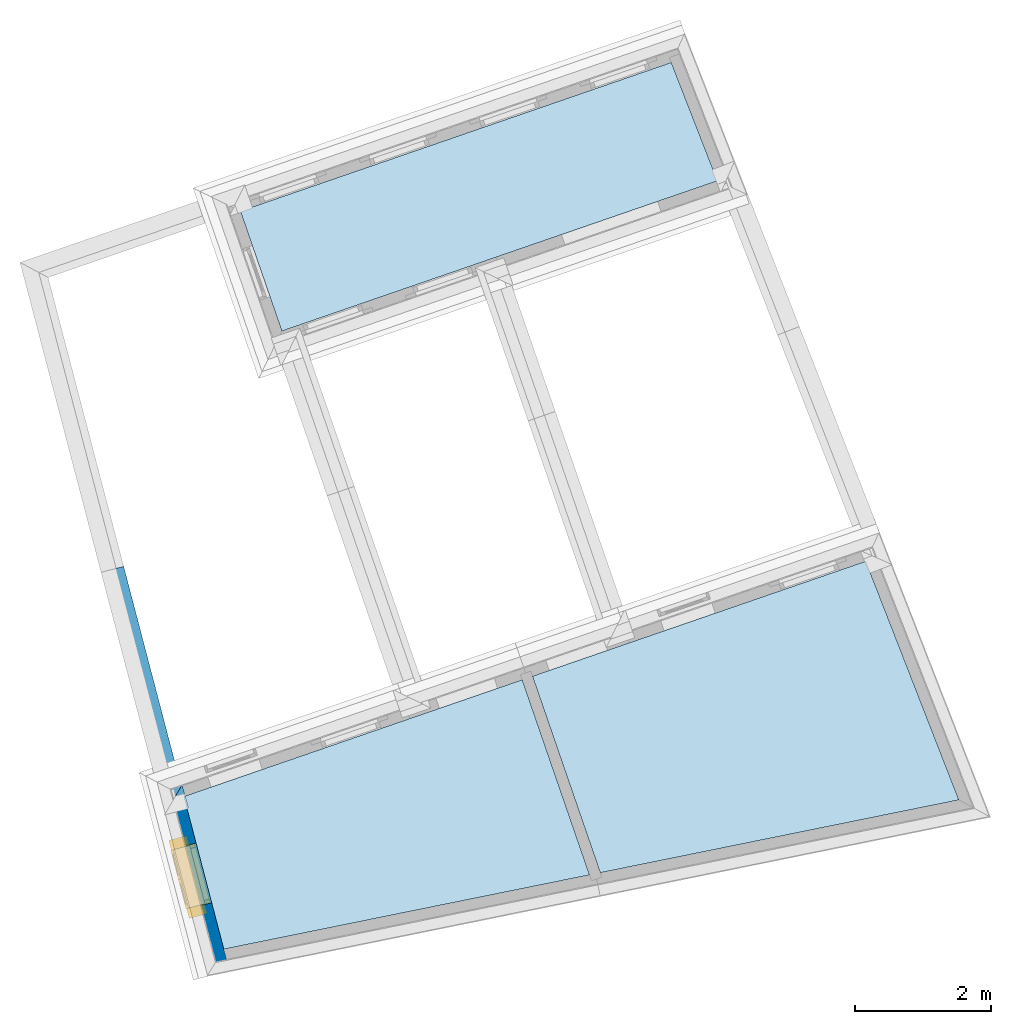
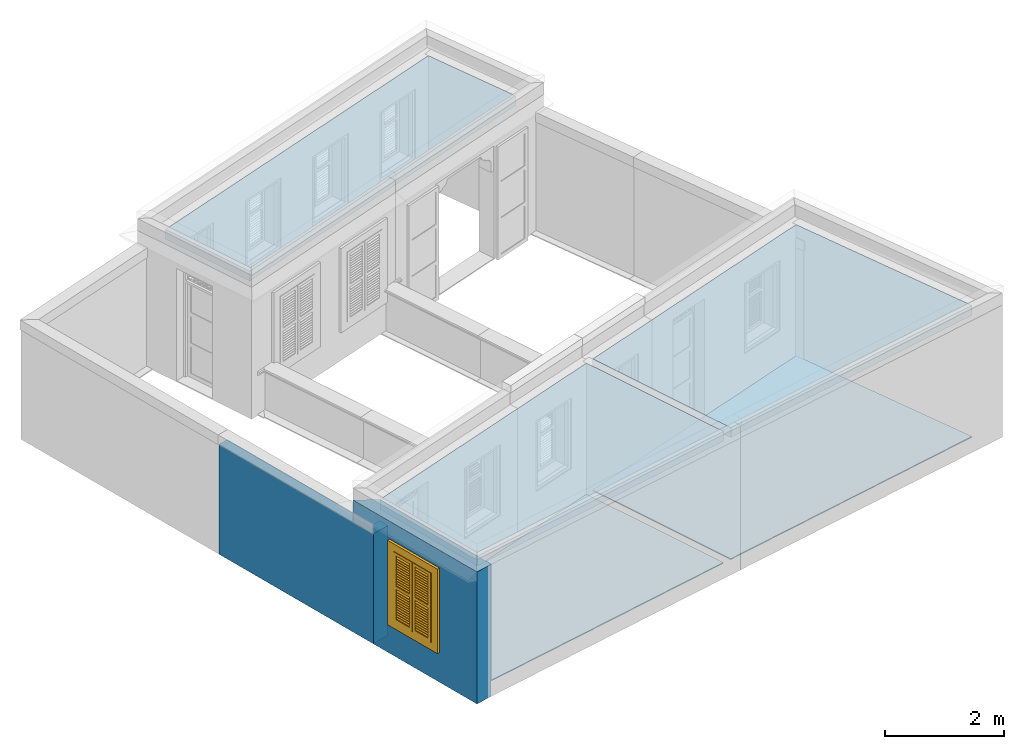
# One storey, part 1 of 16: 5 slabs, 3 walls, 1 window, 1 opening.
"""IFC4 building model written with IfcOpenShell, lengths in metres."""

import ifcopenshell
import ifcopenshell.guid

model = None  # the IFC model being written
_history = None  # IfcOwnerHistory: only IFC2X3 demands one
_inside = {}  # id of a spatial element -> (the spatial element, [elements in it])
_under = {}  # id of a project, library or spatial element -> (it, [spatial elements below it])
_declared = {}  # id of a project -> (the project, [libraries it declares])
_typed = {}  # id of a type object -> (the type object, [elements of that type])
_made_of = {}  # id of a material, layer set ... -> (it, [elements and type objects made of it])


def new_model(schema):
    """Start an empty IFC model of exactly this schema.

    Asked for "IFC4X3", IfcOpenShell would pick the latest addendum, in which some entities
    have other attributes; the version numbers below select the first issue.
    IFC2X3 requires an IfcOwnerHistory on every rooted entity: one is made here for all.
    """
    global model, _history
    if schema == "IFC4X3":
        model = ifcopenshell.file(schema_version=(4, 3, 0, 0))
    else:
        model = ifcopenshell.file(schema=schema)
    _inside.clear()
    _under.clear()
    _declared.clear()
    _typed.clear()
    _made_of.clear()
    _history = None
    if model.schema == "IFC2X3":
        org = make("IfcOrganization", Name="unknown")
        user = make(
            "IfcPersonAndOrganization",
            ThePerson=make("IfcPerson", FamilyName="unknown"),
            TheOrganization=org,
        )
        app = make(
            "IfcApplication",
            ApplicationDeveloper=org,
            Version="unknown",
            ApplicationFullName="unknown",
            ApplicationIdentifier="unknown",
        )
        _history = make(
            "IfcOwnerHistory",
            OwningUser=user,
            OwningApplication=app,
            ChangeAction="ADDED",
            CreationDate=0,
        )
    return model


def make(cls, **values):
    """One entity of the class cls with the attributes given. An attribute that is None is left unset."""
    return model.create_entity(
        cls, **{name: value for name, value in values.items() if value is not None}
    )


def rooted(cls, **values):
    """An entity with a GlobalId (a new one), such as an element, a storey or a relation."""
    return make(cls, GlobalId=ifcopenshell.guid.new(), OwnerHistory=_history, **values)


def si_unit(unit_type, name, prefix=None):
    """IfcSIUnit, for example si_unit("LENGTHUNIT", "METRE", prefix="MILLI")."""
    return make("IfcSIUnit", UnitType=unit_type, Prefix=prefix, Name=name)


def assignment(units):
    """IfcUnitAssignment: the units of a project."""
    return None if units is None else make("IfcUnitAssignment", Units=units)


def point(xyz):
    """IfcCartesianPoint."""
    return None if xyz is None else make("IfcCartesianPoint", Coordinates=xyz)


def direction(xyz):
    """IfcDirection."""
    return None if xyz is None else make("IfcDirection", DirectionRatios=xyz)


def frame(location, z_axis=None, x_axis=None):
    """IfcAxis2Placement3D, a coordinate frame: its origin and axes. An axis left out is left unset."""
    return make(
        "IfcAxis2Placement3D",
        Location=point(location),
        Axis=direction(z_axis),
        RefDirection=direction(x_axis),
    )


def origin():
    """The frame at (0, 0, 0) with its axes left unset."""
    return frame((0.0, 0.0, 0.0))


def origin_with_axes():
    """The frame at (0, 0, 0) with the z axis (0, 0, 1) and the x axis (1, 0, 0) written out."""
    return frame((0.0, 0.0, 0.0), z_axis=(0.0, 0.0, 1.0), x_axis=(1.0, 0.0, 0.0))


def place(relative_to, where):
    """IfcLocalPlacement: puts the frame where relative to a parent placement (None: the world)."""
    return make(
        "IfcLocalPlacement", PlacementRelTo=relative_to, RelativePlacement=where
    )


def context(
    kind, dimensions, precision=None, world=None, true_north=None, identifier=None
):
    """IfcGeometricRepresentationContext, for example the 3D "Model" context."""
    return make(
        "IfcGeometricRepresentationContext",
        ContextIdentifier=identifier,
        ContextType=kind,
        CoordinateSpaceDimension=dimensions,
        Precision=precision,
        WorldCoordinateSystem=world,
        TrueNorth=true_north,
    )


def subcontext(parent, identifier, kind, view, scale=None):
    """IfcGeometricRepresentationSubContext, for example "Body" below "Model"."""
    return make(
        "IfcGeometricRepresentationSubContext",
        ContextIdentifier=identifier,
        ContextType=kind,
        ParentContext=parent,
        TargetScale=scale,
        TargetView=view,
    )


def project(units=None, contexts=None):
    """IfcProject with its units and contexts."""
    return rooted(
        "IfcProject",
        Name="project",
        RepresentationContexts=contexts,
        UnitsInContext=assignment(units),
    )


def spatial(cls, under=None, at=None, **own):
    """A site, building, storey or space (cls), placed at a placement, below another one or the project."""
    s = rooted(cls, ObjectPlacement=at, **own)
    if under is not None:
        _under.setdefault(under.id(), (under, []))[1].append(s)
    return s


def polyline(points):
    """IfcPolyline through the points."""
    return make("IfcPolyline", Points=[point(p) for p in points])


def outline(outer, holes=None, kind="AREA"):
    """IfcArbitraryClosedProfileDef: a profile drawn as a closed curve; with holes, ...WithVoids."""
    if holes is None:
        return make("IfcArbitraryClosedProfileDef", ProfileType=kind, OuterCurve=outer)
    return make(
        "IfcArbitraryProfileDefWithVoids",
        ProfileType=kind,
        OuterCurve=outer,
        InnerCurves=holes,
    )


def extrude(swept, where, along, depth):
    """IfcExtrudedAreaSolid: the profile swept, set in the frame where, extruded along a direction by depth."""
    return make(
        "IfcExtrudedAreaSolid",
        SweptArea=swept,
        Position=where,
        ExtrudedDirection=direction(along),
        Depth=depth,
    )


def clip(a, b, op="DIFFERENCE"):
    """IfcBooleanClippingResult: the solid a cut by the half space b."""
    return make(
        "IfcBooleanClippingResult", Operator=op, FirstOperand=a, SecondOperand=b
    )


def halfspace(plane, agree):
    """IfcHalfSpaceSolid: all space on one side of the plane z = 0 of the frame plane."""
    return make(
        "IfcHalfSpaceSolid",
        BaseSurface=make("IfcPlane", Position=plane),
        AgreementFlag=agree,
    )


def faces_of(points, faces, orient=None, outer=None):
    """IfcFace entities. A face is a list of loops; a loop is a list of indices into points, from 0.

    orient and outer hold one flag for each loop. By default every Orientation is true, the
    first loop of a face is its IfcFaceOuterBound and the others are IfcFaceBound.
    """
    made = []
    for i, loops in enumerate(faces):
        bounds = []
        for j, loop in enumerate(loops):
            is_outer = j == 0 if outer is None else outer[i][j]
            bounds.append(
                make(
                    "IfcFaceOuterBound" if is_outer else "IfcFaceBound",
                    Bound=make("IfcPolyLoop", Polygon=[points[k] for k in loop]),
                    Orientation=True if orient is None else orient[i][j],
                )
            )
        made.append(make("IfcFace", Bounds=bounds))
    return made


def faceted_brep(points, faces, orient=None, outer=None, voids=None):
    """IfcFacetedBrep: a solid bounded by flat faces; with voids (closed shells), ...WithVoids."""
    shared = [point(p) for p in points]
    hull = make("IfcClosedShell", CfsFaces=faces_of(shared, faces, orient, outer))
    if voids is None:
        return make("IfcFacetedBrep", Outer=hull)
    return make(
        "IfcFacetedBrepWithVoids",
        Outer=hull,
        Voids=[
            make(cls, CfsFaces=faces_of(shared, fs, o, b)) for cls, fs, o, b in voids
        ],
    )


def shape(context_of_items, identifier, shape_type, items):
    """IfcShapeRepresentation: the items that make up one representation, for example the "Body"."""
    return make(
        "IfcShapeRepresentation",
        ContextOfItems=context_of_items,
        RepresentationIdentifier=identifier,
        RepresentationType=shape_type,
        Items=items,
    )


def source(mapping_origin, context_of_items, identifier, shape_type, items):
    """IfcRepresentationMap: a shape defined once, which mapped items show again and again."""
    return make(
        "IfcRepresentationMap",
        MappingOrigin=mapping_origin,
        MappedRepresentation=shape(context_of_items, identifier, shape_type, items),
    )


def transform(
    local_origin,
    x_axis=None,
    y_axis=None,
    z_axis=None,
    scale=None,
    scale2=None,
    scale3=None,
    uniform=True,
):
    """IfcCartesianTransformationOperator3D, or its non-uniform kind. x_axis, y_axis, z_axis: its Axis1, 2, 3."""
    if uniform:
        return make(
            "IfcCartesianTransformationOperator3D",
            Axis1=direction(x_axis),
            Axis2=direction(y_axis),
            LocalOrigin=point(local_origin),
            Scale=scale,
            Axis3=direction(z_axis),
        )
    return make(
        "IfcCartesianTransformationOperator3DnonUniform",
        Axis1=direction(x_axis),
        Axis2=direction(y_axis),
        LocalOrigin=point(local_origin),
        Scale=scale,
        Axis3=direction(z_axis),
        Scale2=scale2,
        Scale3=scale3,
    )


def mapped(mapping_source, mapping_target):
    """IfcMappedItem: shows the shape of a source again, moved by a transform."""
    return make(
        "IfcMappedItem", MappingSource=mapping_source, MappingTarget=mapping_target
    )


def material(Name=None, Category=None):
    """IfcMaterial."""
    return make("IfcMaterial", Name=Name, Category=Category)


def layer(
    of_material, thickness, ventilated=None, Name=None, Category=None, Priority=None
):
    """IfcMaterialLayer: one layer of a wall or slab, of a material (None: an air gap)."""
    return make(
        "IfcMaterialLayer",
        Material=of_material,
        LayerThickness=thickness,
        IsVentilated=ventilated,
        Name=Name,
        Category=Category,
        Priority=Priority,
    )


def layer_set(layers, Name=None):
    """IfcMaterialLayerSet."""
    return make("IfcMaterialLayerSet", MaterialLayers=layers, LayerSetName=Name)


def layer_usage(for_layer_set, set_direction, sense, offset, extent=None):
    """IfcMaterialLayerSetUsage: how a layer set lies in its element."""
    return make(
        "IfcMaterialLayerSetUsage",
        ForLayerSet=for_layer_set,
        LayerSetDirection=set_direction,
        DirectionSense=sense,
        OffsetFromReferenceLine=offset,
        ReferenceExtent=extent,
    )


def material_profile(
    of_material, cross_section, Name=None, Category=None, Priority=None
):
    """IfcMaterialProfile: a cross section and its material."""
    return make(
        "IfcMaterialProfile",
        Name=Name,
        Material=of_material,
        Profile=cross_section,
        Priority=Priority,
        Category=Category,
    )


def profile_set(profiles, Name=None, composite=None):
    """IfcMaterialProfileSet."""
    return make(
        "IfcMaterialProfileSet",
        Name=Name,
        MaterialProfiles=profiles,
        CompositeProfile=composite,
    )


def profile_usage(for_profile_set, cardinal=None, extent=None):
    """IfcMaterialProfileSetUsage: how a profile set lies along its element."""
    return make(
        "IfcMaterialProfileSetUsage",
        ForProfileSet=for_profile_set,
        CardinalPoint=cardinal,
        ReferenceExtent=extent,
    )


def made_of(thing, what):
    """Note that an element or type object is made of a material, layer set ...; save() writes the relation."""
    if what is not None:
        _made_of.setdefault(what.id(), (what, []))[1].append(thing)
    return thing


def type_object(cls, material=None, **own):
    """A type object (cls), such as IfcWallType, which elements share."""
    return made_of(rooted(cls, **own), material)


def type_shapes(of_type, sources):
    """Give a type object the sources (RepresentationMaps) that its elements show as mapped items."""
    of_type.RepresentationMaps = sources


def element(
    cls,
    number,
    at=None,
    inside=None,
    cuts=None,
    type_object=None,
    material=None,
    context=None,
    identifier="Body",
    shape_type=None,
    held_by="IfcProductDefinitionShape",
    body=None,
    shapes=None,
    **own,
):
    """One element of the class cls, such as IfcWall. Its Tag is "e" and its number.

    at: its placement. inside: the storey or other place that contains it. cuts: it is an
    opening in that element (IfcRelVoidsElement). A single representation is given by context,
    identifier, shape_type and body (its items); several are given by shapes. held_by: the class
    of the entity that holds the representations. save() writes the other relations.
    """
    e = rooted(cls, Tag="e%d" % number, ObjectPlacement=at, **own)
    if body is not None:
        shapes = [shape(context, identifier, shape_type, body)]
    if shapes is not None:
        e.Representation = make(held_by, Representations=shapes)
    if inside is not None:
        _inside.setdefault(inside.id(), (inside, []))[1].append(e)
    if cuts is not None:
        rooted(
            "IfcRelVoidsElement", RelatingBuildingElement=cuts, RelatedOpeningElement=e
        )
    if type_object is not None:
        _typed.setdefault(type_object.id(), (type_object, []))[1].append(e)
    return made_of(e, material)


def fill(opening, filler):
    """IfcRelFillsElement: the door or window that sits in an opening."""
    return rooted(
        "IfcRelFillsElement",
        RelatingOpeningElement=opening,
        RelatedBuildingElement=filler,
    )


def aggregate(whole, parts):
    """IfcRelAggregates: a whole, such as a stair, and the parts it consists of."""
    return rooted("IfcRelAggregates", RelatingObject=whole, RelatedObjects=parts)


def save(model, path):
    """Write the relations noted so far, then the file.

    IfcRelAggregates (storeys below a building ...), IfcRelContainedInSpatialStructure (elements
    in a storey), IfcRelDefinesByType, IfcRelAssociatesMaterial and IfcRelDeclares: one each for
    every whole, place, type object, material and project.
    """
    for whole, parts in _under.values():
        aggregate(whole, parts)
    for where, things in _inside.values():
        rooted(
            "IfcRelContainedInSpatialStructure",
            RelatedElements=things,
            RelatingStructure=where,
        )
    for kind, things in _typed.values():
        rooted("IfcRelDefinesByType", RelatedObjects=things, RelatingType=kind)
    for what, things in _made_of.values():
        rooted("IfcRelAssociatesMaterial", RelatedObjects=things, RelatingMaterial=what)
    for by, libraries in _declared.values():
        rooted("IfcRelDeclares", RelatingContext=by, RelatedDefinitions=libraries)
    model.write(path)


model = new_model("IFC4")

# Units and contexts
model_context = context("Model", 3, world=origin_with_axes())
body_context = subcontext(model_context, "Body", "Model", "MODEL_VIEW")
ifc_project = project(units=[si_unit("PLANEANGLEUNIT", "RADIAN"), si_unit("MASSUNIT", "GRAM", prefix="KILO"), si_unit("FORCEUNIT", "NEWTON", prefix="KILO"), si_unit("LENGTHUNIT", "METRE"), si_unit("AREAUNIT", "SQUARE_METRE"), si_unit("VOLUMEUNIT", "CUBIC_METRE")], contexts=[model_context, model_context])

# Site, building, storey
site_placement = place(None, origin_with_axes())
site = spatial("IfcSite", under=ifc_project, at=site_placement, Name="Site plot-8", CompositionType="ELEMENT")
building_placement = place(None, origin_with_axes())
building = spatial("IfcBuilding", under=site, at=building_placement, Name="Building plot-8", CompositionType="ELEMENT")
storey_placement = place(None, frame((0.0, 0.0, 3.0), z_axis=(0.0, 0.0, 1.0), x_axis=(1.0, 0.0, 0.0)))
storey = spatial("IfcBuildingStorey", under=building, at=storey_placement, Name="plot-8 1", CompositionType="ELEMENT", Elevation=3.0)

# Slabs
slab_1_placement = place(storey_placement, frame((-5.12902065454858, 22.8815014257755, 2.5)))
element("IfcSlab", 1, at=slab_1_placement, inside=storey, Name="My Slab", ObjectType="Slab", PredefinedType="FLOOR", context=body_context, shape_type="SweptSolid", body=[
    extrude(outline(polyline([(0.0, 0.0), (-0.68036693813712, 1.7445652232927), (-7.03227549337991, -0.446661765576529), (-6.4220974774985, -2.2154401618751), (0.0, 0.0)])), origin_with_axes(), (0.0, 0.0, 1.0), 0.2),
])
slab_2_placement = place(storey_placement, frame((-1.56989651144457, 13.7553610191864, 2.5)))
element("IfcSlab", 2, at=slab_2_placement, inside=storey, Name="My Slab", ObjectType="Slab", PredefinedType="FLOOR", context=body_context, shape_type="SweptSolid", body=[
    extrude(outline(polyline([(0.0, 0.0), (-1.37202766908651, 3.5180894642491), (-6.28587327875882, 1.82295310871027), (-5.28659659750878, -1.07374090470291), (0.0, 0.0)])), origin_with_axes(), (0.0, 0.0, 1.0), 0.2),
])
slab_3_placement = place(storey_placement, frame((-1.56989651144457, 13.7553610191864, 0.0)))
element("IfcSlab", 3, at=slab_3_placement, inside=storey, Name="My Slab", ObjectType="Slab", PredefinedType="FLOOR", context=body_context, shape_type="SweptSolid", body=[
    extrude(outline(polyline([(0.0, 0.0), (-1.37202766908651, 3.5180894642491), (-6.28587327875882, 1.82295310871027), (-5.28659659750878, -1.07374090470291), (0.0, 0.0)])), origin_with_axes(), (0.0, 0.0, 1.0), 0.02),
])
slab_4_placement = place(storey_placement, frame((-8.00702276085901, 15.5261361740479, 2.5)))
element("IfcSlab", 4, at=slab_4_placement, inside=storey, Name="My Slab", ObjectType="Slab", PredefinedType="FLOOR", context=body_context, shape_type="SweptSolid", body=[
    extrude(outline(polyline([(0.0, 0.0), (-4.98802693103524, -1.72072679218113), (-4.39930326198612, -3.97172191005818), (0.992359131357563, -2.87664148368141), (0.0, 0.0)])), origin_with_axes(), (0.0, 0.0, 1.0), 0.2),
])
slab_5_placement = place(storey_placement, frame((-8.00702276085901, 15.5261361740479, 0.0)))
element("IfcSlab", 5, at=slab_5_placement, inside=storey, Name="My Slab", ObjectType="Slab", PredefinedType="FLOOR", context=body_context, shape_type="SweptSolid", body=[
    extrude(outline(polyline([(0.0, 0.0), (-4.98802693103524, -1.72072679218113), (-4.39930326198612, -3.97172191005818), (0.992359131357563, -2.87664148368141), (0.0, 0.0)])), origin_with_axes(), (0.0, 0.0, 1.0), 0.02),
])

# Wall, opening, window
ifc_material = material(Name="Masonry")
ifc_layer = layer(ifc_material, 0.33, ventilated=False)
ifc_layer_set = layer_set([ifc_layer], Name="exterior_0.08_0.25")
ifc_layer_usage = layer_usage(ifc_layer_set, "AXIS2", "POSITIVE", -0.25)
wall_type_1 = type_object("IfcWallType", Name="exterior_0.08_0.25", PredefinedType="SOLIDWALL", material=ifc_layer_set)
wall_1_placement = place(storey_placement, frame((-13.0911987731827, 13.8568671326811, 0.0), z_axis=(0.0, 0.0, 1.0), x_axis=(0.253028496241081, -0.967458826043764, 0.0)))
wall_1 = element("IfcWall", 6, at=wall_1_placement, inside=storey, type_object=wall_type_1, material=ifc_layer_usage, Name="exterior", context=body_context, shape_type="SweptSolid", body=[
    extrude(outline(polyline([(0.0741117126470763, 0.0799999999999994), (-0.231599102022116, -0.249999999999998), (2.72650487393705, -0.249999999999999), (2.72650487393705, 0.0800000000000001), (0.0741117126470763, 0.0799999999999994)])), origin_with_axes(), (0.0, 0.0, 1.0), 2.7),
])
opening_placement = place(wall_1_placement, frame((0.783252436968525, 0.0, 0.75)))
opening = element("IfcOpeningElement", 7, at=opening_placement, cuts=wall_1, Name="My Opening", ObjectType="Opening", context=body_context, shape_type="SweptSolid", body=[
    extrude(outline(polyline([(0.0, -0.270000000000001), (0.910000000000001, -0.270000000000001), (0.910000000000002, 1.1), (6.66133814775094e-16, 1.1), (0.0, -0.270000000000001)])), origin_with_axes(), (0.0, 0.0, 1.0), 1.445),
])
window_type = type_object("IfcWindowType", Name="shuttered_shorter", PartitioningType="DOUBLE_PANEL_HORIZONTAL", PredefinedType="NOTDEFINED")
shared_shape = source(origin(), body_context, "Body", "Brep", [
    faceted_brep([(0.393, 0.0, 0.622), (0.074, 0.0, 0.622), (0.074, 0.0, 0.632), (0.393, 0.0, 0.632), (0.074, -0.04, 0.592), (0.393, -0.04, 0.592), (0.393, -0.04, 0.582), (0.074, -0.04, 0.582), (0.517, 0.0, 0.682), (0.836, 0.0, 0.682), (0.836, 0.0, 0.672), (0.517, 0.0, 0.672), (0.517, -0.04, 0.642), (0.836, -0.04, 0.642), (0.836, -0.04, 0.632), (0.517, -0.04, 0.632), (0.517, 0.0, 0.632), (0.836, 0.0, 0.632), (0.836, 0.0, 0.622), (0.517, 0.0, 0.622), (0.517, -0.04, 0.592), (0.836, -0.04, 0.592), (0.836, -0.04, 0.582), (0.517, -0.04, 0.582), (0.517, 0.0, 0.232), (0.836, 0.0, 0.232), (0.836, 0.0, 0.222), (0.517, 0.0, 0.222), (0.517, -0.04, 0.192), (0.836, -0.04, 0.192), (0.836, -0.04, 0.182), (0.517, -0.04, 0.182), (0.517, 0.0, 0.532), (0.836, 0.0, 0.532), (0.836, 0.0, 0.522), (0.517, 0.0, 0.522), (0.517, -0.04, 0.492), (0.836, -0.04, 0.492), (0.836, -0.04, 0.482), (0.517, -0.04, 0.482), (0.517, 0.0, 0.482), (0.836, 0.0, 0.482), (0.836, 0.0, 0.472), (0.517, 0.0, 0.472), (0.517, -0.04, 0.442), (0.836, -0.04, 0.442), (0.836, -0.04, 0.432), (0.517, -0.04, 0.432), (0.517, 0.0, 0.582), (0.836, 0.0, 0.582), (0.836, 0.0, 0.572), (0.517, 0.0, 0.572), (0.517, -0.04, 0.542), (0.836, -0.04, 0.542), (0.836, -0.04, 0.532), (0.517, -0.04, 0.532), (0.517, 0.0, 0.182), (0.836, 0.0, 0.182), (0.836, 0.0, 0.172), (0.517, 0.0, 0.172), (0.517, -0.04, 0.142), (0.836, -0.04, 0.142), (0.836, -0.04, 0.132), (0.517, -0.04, 0.132), (0.517, 0.0, 0.382), (0.836, 0.0, 0.382), (0.836, 0.0, 0.372), (0.517, 0.0, 0.372), (0.517, -0.04, 0.342), (0.836, -0.04, 0.342), (0.836, -0.04, 0.332), (0.517, -0.04, 0.332), (0.517, 0.0, 0.432), (0.836, 0.0, 0.432), (0.836, 0.0, 0.422), (0.517, 0.0, 0.422), (0.517, -0.04, 0.392), (0.836, -0.04, 0.392), (0.836, -0.04, 0.382), (0.517, -0.04, 0.382), (0.517, 0.0, 0.132), (0.836, 0.0, 0.132), (0.836, 0.0, 0.122), (0.517, 0.0, 0.122), (0.517, -0.04, 0.092), (0.836, -0.04, 0.092), (0.836, -0.04, 0.082), (0.517, -0.04, 0.082), (0.517, 0.0, 0.282), (0.836, 0.0, 0.282), (0.836, 0.0, 0.272), (0.517, 0.0, 0.272), (0.517, -0.04, 0.242), (0.836, -0.04, 0.242), (0.836, -0.04, 0.232), (0.517, -0.04, 0.232), (0.517, 0.0, 0.332), (0.836, 0.0, 0.332), (0.836, 0.0, 0.322), (0.517, 0.0, 0.322), (0.517, -0.04, 0.292), (0.836, -0.04, 0.292), (0.836, -0.04, 0.282), (0.517, -0.04, 0.282), (0.517, 0.0, 1.362667), (0.836, 0.0, 1.362667), (0.836, 0.0, 1.352667), (0.517, 0.0, 1.352667), (0.517, -0.04, 1.322667), (0.836, -0.04, 1.322667), (0.836, -0.04, 1.312667), (0.517, -0.04, 1.312667), (0.517, 0.0, 1.312667), (0.836, 0.0, 1.312667), (0.836, 0.0, 1.302667), (0.517, 0.0, 1.302667), (0.517, -0.04, 1.272667), (0.836, -0.04, 1.272667), (0.836, -0.04, 1.262667), (0.517, -0.04, 1.262667), (0.517, 0.0, 0.912667), (0.836, 0.0, 0.912667), (0.836, 0.0, 0.902667), (0.517, 0.0, 0.902667), (0.517, -0.04, 0.872667), (0.836, -0.04, 0.872667), (0.836, -0.04, 0.862667), (0.517, -0.04, 0.862667), (0.517, 0.0, 1.212667), (0.836, 0.0, 1.212667), (0.836, 0.0, 1.202667), (0.517, 0.0, 1.202667), (0.517, -0.04, 1.172667), (0.836, -0.04, 1.172667), (0.836, -0.04, 1.162667), (0.517, -0.04, 1.162667), (0.517, 0.0, 1.162667), (0.836, 0.0, 1.162667), (0.836, 0.0, 1.152667), (0.517, 0.0, 1.152667), (0.517, -0.04, 1.122667), (0.836, -0.04, 1.122667), (0.836, -0.04, 1.112667), (0.517, -0.04, 1.112667), (0.517, 0.0, 1.262667), (0.836, 0.0, 1.262667), (0.836, 0.0, 1.252667), (0.517, 0.0, 1.252667), (0.517, -0.04, 1.222667), (0.836, -0.04, 1.222667), (0.836, -0.04, 1.212667), (0.517, -0.04, 1.212667), (0.517, 0.0, 0.862667), (0.836, 0.0, 0.862667), (0.836, 0.0, 0.852667), (0.517, 0.0, 0.852667), (0.517, -0.04, 0.822667), (0.836, -0.04, 0.822667), (0.836, -0.04, 0.812667), (0.517, -0.04, 0.812667), (0.517, 0.0, 1.062667), (0.836, 0.0, 1.062667), (0.836, 0.0, 1.052667), (0.517, 0.0, 1.052667), (0.517, -0.04, 1.022667), (0.836, -0.04, 1.022667), (0.836, -0.04, 1.012667), (0.517, -0.04, 1.012667), (0.517, 0.0, 1.112667), (0.836, 0.0, 1.112667), (0.836, 0.0, 1.102667), (0.517, 0.0, 1.102667), (0.517, -0.04, 1.072667), (0.836, -0.04, 1.072667), (0.836, -0.04, 1.062667), (0.517, -0.04, 1.062667), (0.517, 0.0, 0.812667), (0.836, 0.0, 0.812667), (0.836, 0.0, 0.802667), (0.517, 0.0, 0.802667), (0.517, -0.04, 0.772667), (0.836, -0.04, 0.772667), (0.836, -0.04, 0.762667), (0.517, -0.04, 0.762667), (0.517, 0.0, 0.962667), (0.836, 0.0, 0.962667), (0.836, 0.0, 0.952667), (0.517, 0.0, 0.952667), (0.517, -0.04, 0.922667), (0.836, -0.04, 0.922667), (0.836, -0.04, 0.912667), (0.517, -0.04, 0.912667), (0.517, 0.0, 1.012667), (0.836, 0.0, 1.012667), (0.836, 0.0, 1.002667), (0.517, 0.0, 1.002667), (0.517, -0.04, 0.972667), (0.836, -0.04, 0.972667), (0.836, -0.04, 0.962667), (0.517, -0.04, 0.962667), (0.074, 0.0, 0.682), (0.393, 0.0, 0.682), (0.393, 0.0, 0.672), (0.074, 0.0, 0.672), (0.074, -0.04, 0.642), (0.393, -0.04, 0.642), (0.393, -0.04, 0.632), (0.074, -0.04, 0.632), (0.074, 0.0, 0.232), (0.393, 0.0, 0.232), (0.393, 0.0, 0.222), (0.074, 0.0, 0.222), (0.074, -0.04, 0.192), (0.393, -0.04, 0.192), (0.393, -0.04, 0.182), (0.074, -0.04, 0.182), (0.074, 0.0, 0.532), (0.393, 0.0, 0.532), (0.393, 0.0, 0.522), (0.074, 0.0, 0.522), (0.074, -0.04, 0.492), (0.393, -0.04, 0.492), (0.393, -0.04, 0.482), (0.074, -0.04, 0.482), (0.074, 0.0, 0.482), (0.393, 0.0, 0.482), (0.393, 0.0, 0.472), (0.074, 0.0, 0.472), (0.074, -0.04, 0.442), (0.393, -0.04, 0.442), (0.393, -0.04, 0.432), (0.074, -0.04, 0.432), (0.074, 0.0, 0.582), (0.393, 0.0, 0.582), (0.393, 0.0, 0.572), (0.074, 0.0, 0.572), (0.074, -0.04, 0.542), (0.393, -0.04, 0.542), (0.393, -0.04, 0.532), (0.074, -0.04, 0.532), (0.074, 0.0, 0.182), (0.393, 0.0, 0.182), (0.393, 0.0, 0.172), (0.074, 0.0, 0.172), (0.074, -0.04, 0.142), (0.393, -0.04, 0.142), (0.393, -0.04, 0.132), (0.074, -0.04, 0.132), (0.074, 0.0, 0.382), (0.393, 0.0, 0.382), (0.393, 0.0, 0.372), (0.074, 0.0, 0.372), (0.074, -0.04, 0.342), (0.393, -0.04, 0.342), (0.393, -0.04, 0.332), (0.074, -0.04, 0.332), (0.074, 0.0, 0.432), (0.393, 0.0, 0.432), (0.393, 0.0, 0.422), (0.074, 0.0, 0.422), (0.074, -0.04, 0.392), (0.393, -0.04, 0.392), (0.393, -0.04, 0.382), (0.074, -0.04, 0.382), (0.074, 0.0, 0.132), (0.393, 0.0, 0.132), (0.393, 0.0, 0.122), (0.074, 0.0, 0.122), (0.074, -0.04, 0.092), (0.393, -0.04, 0.092), (0.393, -0.04, 0.082), (0.074, -0.04, 0.082), (0.074, 0.0, 0.282), (0.393, 0.0, 0.282), (0.393, 0.0, 0.272), (0.074, 0.0, 0.272), (0.074, -0.04, 0.242), (0.393, -0.04, 0.242), (0.393, -0.04, 0.232), (0.074, -0.04, 0.232), (0.074, 0.0, 0.332), (0.393, 0.0, 0.332), (0.393, 0.0, 0.322), (0.074, 0.0, 0.322), (0.074, -0.04, 0.292), (0.393, -0.04, 0.292), (0.393, -0.04, 0.282), (0.074, -0.04, 0.282), (0.074, 0.0, 1.362667), (0.393, 0.0, 1.362667), (0.393, 0.0, 1.352667), (0.074, 0.0, 1.352667), (0.074, -0.04, 1.322667), (0.393, -0.04, 1.322667), (0.393, -0.04, 1.312667), (0.074, -0.04, 1.312667), (0.074, 0.0, 1.312667), (0.393, 0.0, 1.312667), (0.393, 0.0, 1.302667), (0.074, 0.0, 1.302667), (0.074, -0.04, 1.272667), (0.393, -0.04, 1.272667), (0.393, -0.04, 1.262667), (0.074, -0.04, 1.262667), (0.074, 0.0, 0.912667), (0.393, 0.0, 0.912667), (0.393, 0.0, 0.902667), (0.074, 0.0, 0.902667), (0.074, -0.04, 0.872667), (0.393, -0.04, 0.872667), (0.393, -0.04, 0.862667), (0.074, -0.04, 0.862667), (0.074, 0.0, 1.212667), (0.393, 0.0, 1.212667), (0.393, 0.0, 1.202667), (0.074, 0.0, 1.202667), (0.074, -0.04, 1.172667), (0.393, -0.04, 1.172667), (0.393, -0.04, 1.162667), (0.074, -0.04, 1.162667), (0.074, 0.0, 1.162667), (0.393, 0.0, 1.162667), (0.393, 0.0, 1.152667), (0.074, 0.0, 1.152667), (0.074, -0.04, 1.122667), (0.393, -0.04, 1.122667), (0.393, -0.04, 1.112667), (0.074, -0.04, 1.112667), (0.074, 0.0, 1.262667), (0.393, 0.0, 1.262667), (0.393, 0.0, 1.252667), (0.074, 0.0, 1.252667), (0.074, -0.04, 1.222667), (0.393, -0.04, 1.222667), (0.393, -0.04, 1.212667), (0.074, -0.04, 1.212667), (0.074, 0.0, 0.862667), (0.393, 0.0, 0.862667), (0.393, 0.0, 0.852667), (0.074, 0.0, 0.852667), (0.074, -0.04, 0.822667), (0.393, -0.04, 0.822667), (0.393, -0.04, 0.812667), (0.074, -0.04, 0.812667), (0.074, 0.0, 1.062667), (0.393, 0.0, 1.062667), (0.393, 0.0, 1.052667), (0.074, 0.0, 1.052667), (0.074, -0.04, 1.022667), (0.393, -0.04, 1.022667), (0.393, -0.04, 1.012667), (0.074, -0.04, 1.012667), (0.074, 0.0, 1.112667), (0.393, 0.0, 1.112667), (0.393, 0.0, 1.102667), (0.074, 0.0, 1.102667), (0.074, -0.04, 1.072667), (0.393, -0.04, 1.072667), (0.393, -0.04, 1.062667), (0.074, -0.04, 1.062667), (0.074, 0.0, 0.812667), (0.393, 0.0, 0.812667), (0.393, 0.0, 0.802667), (0.074, 0.0, 0.802667), (0.074, -0.04, 0.772667), (0.393, -0.04, 0.772667), (0.393, -0.04, 0.762667), (0.074, -0.04, 0.762667), (0.074, 0.0, 0.962667), (0.393, 0.0, 0.962667), (0.393, 0.0, 0.952667), (0.074, 0.0, 0.952667), (0.074, -0.04, 0.922667), (0.393, -0.04, 0.922667), (0.393, -0.04, 0.912667), (0.074, -0.04, 0.912667), (0.074, 0.0, 1.012667), (0.393, 0.0, 1.012667), (0.393, 0.0, 1.002667), (0.074, 0.0, 1.002667), (0.074, -0.04, 0.972667), (0.393, -0.04, 0.972667), (0.393, -0.04, 0.962667), (0.074, -0.04, 0.962667), (0.517, -0.04, 0.072), (0.457, -0.04, 0.012), (0.896, -0.04, 0.012), (0.836, -0.04, 0.072), (0.457, -0.04, 0.692667), (0.517, -0.04, 0.692667), (0.457, 0.0, 0.012), (0.896, 0.0, 0.012), (0.836, -0.04, 0.692667), (0.896, -0.04, 0.692667), (0.836, 0.0, 0.072), (0.517, 0.0, 0.072), (0.457, 0.0, 0.692667), (0.517, 0.0, 0.692667), (0.517, -0.04, 0.752666), (0.457, -0.04, 0.752666), (0.896, 0.0, 0.692667), (0.836, 0.0, 0.692667), (0.836, -0.04, 0.752666), (0.896, -0.04, 0.752666), (0.457, 0.0, 0.752666), (0.457, -0.04, 1.433333), (0.517, -0.04, 1.373333), (0.896, 0.0, 0.752666), (0.836, -0.04, 1.373333), (0.896, -0.04, 1.433333), (0.457, 0.0, 1.433333), (0.517, 0.0, 0.752666), (0.836, 0.0, 0.752666), (0.517, 0.0, 1.373333), (0.896, 0.0, 1.433333), (0.836, 0.0, 1.373333), (0.074, -0.04, 0.072), (0.014, -0.04, 0.012), (0.453, -0.04, 0.012), (0.393, -0.04, 0.072), (0.014, -0.04, 0.692667), (0.074, -0.04, 0.692667), (0.014, 0.0, 0.012), (0.453, 0.0, 0.012), (0.393, -0.04, 0.692667), (0.453, -0.04, 0.692667), (0.393, 0.0, 0.072), (0.074, 0.0, 0.072), (0.014, 0.0, 0.692667), (0.074, 0.0, 0.692667), (0.074, -0.04, 0.752666), (0.014, -0.04, 0.752666), (0.453, 0.0, 0.692667), (0.393, 0.0, 0.692667), (0.393, -0.04, 0.752666), (0.453, -0.04, 0.752666), (0.014, 0.0, 0.752666), (0.014, -0.04, 1.433333), (0.074, -0.04, 1.373333), (0.453, 0.0, 0.752666), (0.393, -0.04, 1.373333), (0.453, -0.04, 1.433333), (0.014, 0.0, 1.433333), (0.074, 0.0, 0.752666), (0.393, 0.0, 0.752666), (0.074, 0.0, 1.373333), (0.453, 0.0, 1.433333), (0.393, 0.0, 1.373333), (0.0, 0.33, 1.445), (0.91, 0.33, 1.445), (0.85, 0.33, 1.385), (0.06, 0.33, 1.385), (0.91, 0.25, 1.445), (0.0, 0.25, 1.445), (0.91, 0.25, 1.445), (0.85, 0.33, 0.06), (0.91, 0.33, 0.0), (0.85, 0.25, 1.385), (0.06, 0.25, 1.385), (0.0, 0.33, 0.0), (0.06, 0.33, 0.06), (0.0, 0.25, 0.0), (0.91, 0.25, 0.0), (0.85, 0.25, 0.06), (0.06, 0.25, 0.06), (1.05, 0.25, 1.585), (-0.14, 0.25, 1.585), (-0.14, -0.03, 1.585), (1.05, -0.03, 1.585), (0.9, -0.03, 1.435), (0.01, -0.03, 1.435), (0.01, 0.25, 1.435), (0.9, 0.25, 1.435), (0.9, 0.25, 0.01), (0.9, -0.03, 0.01), (1.05, -0.03, -0.14), (1.05, 0.25, -0.14), (0.01, -0.03, 0.01), (0.01, 0.25, 0.01), (-0.14, -0.03, -0.14), (-0.14, 0.25, -0.14)], [[[0, 1, 2, 3]], [[4, 5, 3, 2]], [[5, 6, 0, 3]], [[1, 0, 6, 7]], [[2, 1, 7, 4]], [[5, 4, 7, 6]], [[8, 9, 10, 11]], [[12, 13, 9, 8]], [[13, 14, 10, 9]], [[14, 15, 11, 10]], [[15, 12, 8, 11]], [[13, 12, 15, 14]], [[16, 17, 18, 19]], [[20, 21, 17, 16]], [[21, 22, 18, 17]], [[22, 23, 19, 18]], [[23, 20, 16, 19]], [[21, 20, 23, 22]], [[24, 25, 26, 27]], [[28, 29, 25, 24]], [[29, 30, 26, 25]], [[30, 31, 27, 26]], [[31, 28, 24, 27]], [[29, 28, 31, 30]], [[32, 33, 34, 35]], [[36, 37, 33, 32]], [[37, 38, 34, 33]], [[38, 39, 35, 34]], [[39, 36, 32, 35]], [[37, 36, 39, 38]], [[40, 41, 42, 43]], [[44, 45, 41, 40]], [[45, 46, 42, 41]], [[46, 47, 43, 42]], [[47, 44, 40, 43]], [[45, 44, 47, 46]], [[48, 49, 50, 51]], [[52, 53, 49, 48]], [[53, 54, 50, 49]], [[54, 55, 51, 50]], [[55, 52, 48, 51]], [[53, 52, 55, 54]], [[56, 57, 58, 59]], [[60, 61, 57, 56]], [[61, 62, 58, 57]], [[62, 63, 59, 58]], [[63, 60, 56, 59]], [[61, 60, 63, 62]], [[64, 65, 66, 67]], [[68, 69, 65, 64]], [[69, 70, 66, 65]], [[70, 71, 67, 66]], [[71, 68, 64, 67]], [[69, 68, 71, 70]], [[72, 73, 74, 75]], [[76, 77, 73, 72]], [[77, 78, 74, 73]], [[78, 79, 75, 74]], [[79, 76, 72, 75]], [[77, 76, 79, 78]], [[80, 81, 82, 83]], [[84, 85, 81, 80]], [[85, 86, 82, 81]], [[86, 87, 83, 82]], [[87, 84, 80, 83]], [[85, 84, 87, 86]], [[88, 89, 90, 91]], [[92, 93, 89, 88]], [[93, 94, 90, 89]], [[94, 95, 91, 90]], [[95, 92, 88, 91]], [[93, 92, 95, 94]], [[96, 97, 98, 99]], [[100, 101, 97, 96]], [[101, 102, 98, 97]], [[102, 103, 99, 98]], [[103, 100, 96, 99]], [[101, 100, 103, 102]], [[104, 105, 106, 107]], [[108, 109, 105, 104]], [[109, 110, 106, 105]], [[110, 111, 107, 106]], [[111, 108, 104, 107]], [[109, 108, 111, 110]], [[112, 113, 114, 115]], [[116, 117, 113, 112]], [[117, 118, 114, 113]], [[118, 119, 115, 114]], [[119, 116, 112, 115]], [[117, 116, 119, 118]], [[120, 121, 122, 123]], [[124, 125, 121, 120]], [[125, 126, 122, 121]], [[126, 127, 123, 122]], [[127, 124, 120, 123]], [[125, 124, 127, 126]], [[128, 129, 130, 131]], [[132, 133, 129, 128]], [[133, 134, 130, 129]], [[134, 135, 131, 130]], [[135, 132, 128, 131]], [[133, 132, 135, 134]], [[136, 137, 138, 139]], [[140, 141, 137, 136]], [[141, 142, 138, 137]], [[142, 143, 139, 138]], [[139, 143, 140, 136]], [[141, 140, 143, 142]], [[144, 145, 146, 147]], [[148, 149, 145, 144]], [[149, 150, 146, 145]], [[150, 151, 147, 146]], [[151, 148, 144, 147]], [[149, 148, 151, 150]], [[152, 153, 154, 155]], [[156, 157, 153, 152]], [[157, 158, 154, 153]], [[158, 159, 155, 154]], [[159, 156, 152, 155]], [[157, 156, 159, 158]], [[160, 161, 162, 163]], [[164, 165, 161, 160]], [[165, 166, 162, 161]], [[166, 167, 163, 162]], [[167, 164, 160, 163]], [[165, 164, 167, 166]], [[168, 169, 170, 171]], [[172, 173, 169, 168]], [[173, 174, 170, 169]], [[174, 175, 171, 170]], [[175, 172, 168, 171]], [[173, 172, 175, 174]], [[176, 177, 178, 179]], [[180, 181, 177, 176]], [[181, 182, 178, 177]], [[182, 183, 179, 178]], [[183, 180, 176, 179]], [[181, 180, 183, 182]], [[184, 185, 186, 187]], [[188, 189, 185, 184]], [[189, 190, 186, 185]], [[190, 191, 187, 186]], [[191, 188, 184, 187]], [[189, 188, 191, 190]], [[192, 193, 194, 195]], [[196, 197, 193, 192]], [[197, 198, 194, 193]], [[198, 199, 195, 194]], [[199, 196, 192, 195]], [[197, 196, 199, 198]], [[200, 201, 202, 203]], [[204, 205, 201, 200]], [[205, 206, 202, 201]], [[206, 207, 203, 202]], [[207, 204, 200, 203]], [[205, 204, 207, 206]], [[208, 209, 210, 211]], [[212, 213, 209, 208]], [[213, 214, 210, 209]], [[214, 215, 211, 210]], [[215, 212, 208, 211]], [[213, 212, 215, 214]], [[216, 217, 218, 219]], [[220, 221, 217, 216]], [[221, 222, 218, 217]], [[222, 223, 219, 218]], [[223, 220, 216, 219]], [[221, 220, 223, 222]], [[224, 225, 226, 227]], [[228, 229, 225, 224]], [[229, 230, 226, 225]], [[230, 231, 227, 226]], [[231, 228, 224, 227]], [[229, 228, 231, 230]], [[232, 233, 234, 235]], [[236, 237, 233, 232]], [[237, 238, 234, 233]], [[238, 239, 235, 234]], [[239, 236, 232, 235]], [[237, 236, 239, 238]], [[240, 241, 242, 243]], [[244, 245, 241, 240]], [[245, 246, 242, 241]], [[246, 247, 243, 242]], [[247, 244, 240, 243]], [[245, 244, 247, 246]], [[248, 249, 250, 251]], [[252, 253, 249, 248]], [[253, 254, 250, 249]], [[254, 255, 251, 250]], [[255, 252, 248, 251]], [[253, 252, 255, 254]], [[256, 257, 258, 259]], [[260, 261, 257, 256]], [[261, 262, 258, 257]], [[262, 263, 259, 258]], [[263, 260, 256, 259]], [[261, 260, 263, 262]], [[264, 265, 266, 267]], [[268, 269, 265, 264]], [[269, 270, 266, 265]], [[270, 271, 267, 266]], [[271, 268, 264, 267]], [[269, 268, 271, 270]], [[272, 273, 274, 275]], [[276, 277, 273, 272]], [[277, 278, 274, 273]], [[278, 279, 275, 274]], [[279, 276, 272, 275]], [[277, 276, 279, 278]], [[280, 281, 282, 283]], [[284, 285, 281, 280]], [[285, 286, 282, 281]], [[286, 287, 283, 282]], [[287, 284, 280, 283]], [[285, 284, 287, 286]], [[288, 289, 290, 291]], [[292, 293, 289, 288]], [[293, 294, 290, 289]], [[294, 295, 291, 290]], [[295, 292, 288, 291]], [[293, 292, 295, 294]], [[296, 297, 298, 299]], [[300, 301, 297, 296]], [[301, 302, 298, 297]], [[302, 303, 299, 298]], [[303, 300, 296, 299]], [[301, 300, 303, 302]], [[304, 305, 306, 307]], [[308, 309, 305, 304]], [[309, 310, 306, 305]], [[310, 311, 307, 306]], [[311, 308, 304, 307]], [[309, 308, 311, 310]], [[312, 313, 314, 315]], [[316, 317, 313, 312]], [[317, 318, 314, 313]], [[318, 319, 315, 314]], [[319, 316, 312, 315]], [[317, 316, 319, 318]], [[320, 321, 322, 323]], [[324, 325, 321, 320]], [[325, 326, 322, 321]], [[326, 327, 323, 322]], [[327, 324, 320, 323]], [[325, 324, 327, 326]], [[328, 329, 330, 331]], [[332, 333, 329, 328]], [[333, 334, 330, 329]], [[334, 335, 331, 330]], [[335, 332, 328, 331]], [[333, 332, 335, 334]], [[336, 337, 338, 339]], [[340, 341, 337, 336]], [[341, 342, 338, 337]], [[342, 343, 339, 338]], [[343, 340, 336, 339]], [[341, 340, 343, 342]], [[344, 345, 346, 347]], [[348, 349, 345, 344]], [[349, 350, 346, 345]], [[350, 351, 347, 346]], [[351, 348, 344, 347]], [[349, 348, 351, 350]], [[352, 353, 354, 355]], [[356, 357, 353, 352]], [[357, 358, 354, 353]], [[358, 359, 355, 354]], [[359, 356, 352, 355]], [[357, 356, 359, 358]], [[360, 361, 362, 363]], [[364, 365, 361, 360]], [[365, 366, 362, 361]], [[366, 367, 363, 362]], [[367, 364, 360, 363]], [[365, 364, 367, 366]], [[368, 369, 370, 371]], [[372, 373, 369, 368]], [[373, 374, 370, 369]], [[374, 375, 371, 370]], [[375, 372, 368, 371]], [[373, 372, 375, 374]], [[376, 377, 378, 379]], [[380, 381, 377, 376]], [[381, 382, 378, 377]], [[382, 383, 379, 378]], [[383, 380, 376, 379]], [[381, 380, 383, 382]], [[384, 385, 386, 387]], [[388, 385, 384, 389]], [[390, 391, 386, 385]], [[392, 387, 386, 393]], [[384, 387, 394, 395]], [[390, 385, 388, 396]], [[389, 384, 395, 397]], [[389, 398, 399, 388]], [[390, 395, 394, 391]], [[400, 393, 386, 391]], [[387, 392, 401, 394]], [[402, 392, 393, 403]], [[396, 388, 399, 404]], [[390, 396, 397, 395]], [[392, 389, 397, 401]], [[398, 389, 392, 402]], [[405, 399, 398, 406]], [[394, 401, 400, 391]], [[407, 403, 393, 400]], [[408, 402, 403, 409]], [[404, 399, 405, 410]], [[411, 397, 396, 404]], [[397, 411, 412, 401]], [[398, 402, 412, 411]], [[406, 398, 411, 413]], [[405, 406, 408, 409]], [[401, 412, 407, 400]], [[414, 409, 403, 407]], [[402, 408, 415, 412]], [[405, 409, 414, 410]], [[404, 410, 413, 411]], [[408, 406, 413, 415]], [[412, 415, 414, 407]], [[413, 410, 414, 415]], [[416, 417, 418, 419]], [[420, 417, 416, 421]], [[422, 423, 418, 417]], [[424, 419, 418, 425]], [[416, 419, 426, 427]], [[422, 417, 420, 428]], [[421, 416, 427, 429]], [[421, 430, 431, 420]], [[422, 427, 426, 423]], [[432, 425, 418, 423]], [[419, 424, 433, 426]], [[434, 424, 425, 435]], [[428, 420, 431, 436]], [[422, 428, 429, 427]], [[424, 421, 429, 433]], [[430, 421, 424, 434]], [[437, 431, 430, 438]], [[426, 433, 432, 423]], [[439, 435, 425, 432]], [[440, 434, 435, 441]], [[436, 431, 437, 442]], [[443, 429, 428, 436]], [[429, 443, 444, 433]], [[430, 434, 444, 443]], [[438, 430, 443, 445]], [[437, 438, 440, 441]], [[433, 444, 439, 432]], [[446, 441, 435, 439]], [[434, 440, 447, 444]], [[437, 441, 446, 442]], [[436, 442, 445, 443]], [[440, 438, 445, 447]], [[444, 447, 446, 439]], [[445, 442, 446, 447]], [[448, 449, 450, 451]], [[452, 449, 448]], [[448, 453, 454]], [[448, 454, 452]], [[455, 450, 449, 456]], [[451, 450, 457, 458]], [[459, 448, 451, 460]], [[448, 459, 461, 453]], [[454, 453, 458, 457]], [[462, 452, 454]], [[454, 457, 463]], [[454, 463, 462]], [[456, 449, 452, 462]], [[450, 455, 463, 457]], [[456, 459, 460, 455]], [[460, 451, 458, 464]], [[459, 456, 462, 461]], [[464, 458, 453, 461]], [[461, 462, 463, 464]], [[455, 460, 464, 463]], [[465, 466, 467, 468]], [[469, 470, 471, 472]], [[473, 474, 469, 472]], [[465, 468, 475, 476]], [[470, 477, 478, 471]], [[474, 473, 478, 477]], [[474, 477, 479, 475]], [[470, 467, 479, 477]], [[470, 469, 468, 467]], [[474, 475, 468, 469]], [[471, 478, 480, 466]], [[473, 472, 465, 476]], [[473, 476, 480, 478]], [[466, 465, 472, 471]], [[480, 476, 475, 479]], [[480, 479, 467, 466]]]),
])
type_shapes(window_type, [shared_shape])
window_placement = place(storey_placement, frame((-13.1542274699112, 13.0307849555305, 0.75), z_axis=(0.0, 0.0, 1.0), x_axis=(0.230255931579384, -0.880387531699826, 0.0)))
window = element("IfcWindow", 8, at=window_placement, inside=storey, type_object=window_type, Name="bedroom outside window", OverallHeight=1.445, OverallWidth=0.91, context=body_context, shape_type="MappedRepresentation", body=[
    mapped(shared_shape, transform((0.0, 0.0, 0.0), scale=1.0)),
])
fill(opening, window)

# Walls
ifc_material_profile = material_profile(None, outline(polyline([(0.25, 0.0), (0.25, 2.245), (0.05, 2.245), (0.05, 0.02), (-0.08, 0.02), (-0.08, 0.0), (0.25, 0.0)])))
ifc_profile_set = profile_set([ifc_material_profile])
ifc_profile_usage_1 = profile_usage(ifc_profile_set)
wall_type_2 = type_object("IfcWallType", Name="parapet street_0", PredefinedType="PARAPET", material=ifc_profile_set)
wall_2_placement = place(storey_placement, frame((-12.8381702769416, 12.8894083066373, 0.0), z_axis=(-0.253028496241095, 0.96745882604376, 0.0), x_axis=(-0.96745882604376, -0.253028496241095, 0.0)))
element("IfcWall", 9, at=wall_2_placement, inside=storey, type_object=wall_type_2, material=ifc_profile_usage_1, Name="parapet street_0", context=body_context, shape_type="Clipping", body=[
    clip(clip(extrude(outline(polyline([(0.25, 0.0), (0.25, 2.245), (0.05, 2.245), (0.05, 0.02), (-0.08, 0.02), (-0.08, 0.0), (0.25, 0.0)])), origin_with_axes(), (0.0, 0.0, 1.0), 5.43188389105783), halfspace(frame((0.0, 0.0, 4.43188389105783), z_axis=(3.1025012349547e-14, 0.0, -1.0), x_axis=(0.0, 1.0, 0.0)), True)), halfspace(frame((0.0, 0.0, 1.0), z_axis=(-0.707106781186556, 0.0, -0.707106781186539), x_axis=(0.0, 1.0, 0.0)), False)),
])
ifc_profile_usage_2 = profile_usage(ifc_profile_set)
wall_3_placement = place(storey_placement, frame((-12.0269940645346, 14.1351984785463, 0.0), z_axis=(-0.967458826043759, -0.253028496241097, 0.0), x_axis=(0.253028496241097, -0.967458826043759, 0.0)))
element("IfcWall", 10, at=wall_3_placement, inside=storey, type_object=wall_type_2, material=ifc_profile_usage_2, Name="parapet street_0", context=body_context, shape_type="Clipping", body=[
    clip(clip(extrude(outline(polyline([(0.25, 0.0), (0.25, 2.245), (0.05, 2.245), (0.05, 0.02), (-0.08, 0.02), (-0.08, 0.0), (0.25, 0.0)])), origin_with_axes(), (0.0, 0.0, 1.0), 2.1), halfspace(frame((0.0, 0.0, 1.1), z_axis=(0.707106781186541, 0.0, -0.707106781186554), x_axis=(0.0, 1.0, 0.0)), True)), halfspace(frame((0.0, 0.0, 1.0), z_axis=(3.82856869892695e-16, 0.0, -1.0), x_axis=(0.0, 1.0, 0.0)), False)),
])

save(model, "model.ifc")
